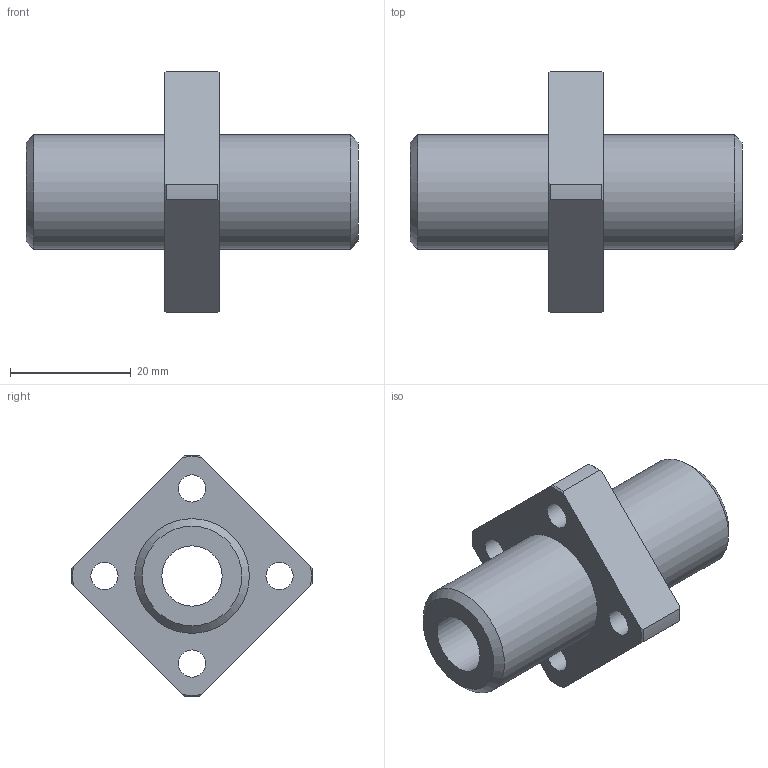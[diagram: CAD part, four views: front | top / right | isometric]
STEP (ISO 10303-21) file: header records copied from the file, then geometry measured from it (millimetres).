
FILE_DESCRIPTION(('STEP AP203'),'1');
FILE_NAME('//192.168.1.1/share/s-4 技術開発/s-4-4_CAD/s-4-4-3_見直し済み/PBC LINEAR修正済み/CFPJ/CFPJ_TOP/CFPJ/CFPJ10.step','2022-03-24T04:03:41',(' '),(' '),'Spatial InterOp 3D',' ',' ');
FILE_SCHEMA(('CONFIG_CONTROL_DESIGN'));
Length unit declared in the file: millimetre
Products named in the file (1): 1
Bounding box: 55 x 39.99 x 39.99 mm (x, y, z)
Volume: 15642.4 mm3; surface area: 7588.5 mm2
Topology: 1 solids, 1 shells, 37 faces, 92 edges, 63 vertices
Faces by surface type: cylinder 15, plane 12, cone 10
Full cylindrical faces by diameter (mm): 4.5 x4, 7.5 x4, 10 x1, 19 x2
Entity records: 1078 total; most frequent: CARTESIAN_POINT 214, DIRECTION 172, ORIENTED_EDGE 144, AXIS2_PLACEMENT_3D 78, EDGE_CURVE 72, EDGE_LOOP 66, VERTEX_POINT 56, FACE_OUTER_BOUND 48
